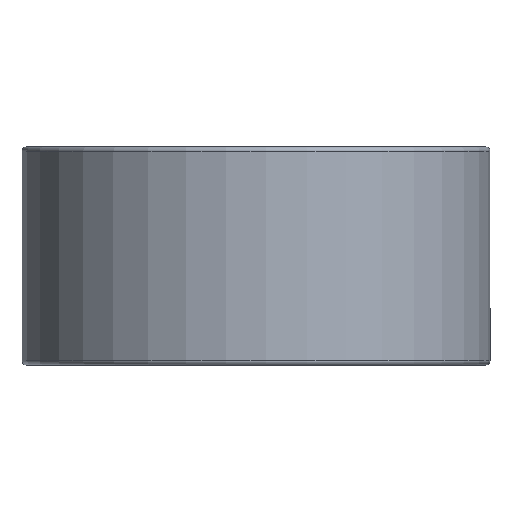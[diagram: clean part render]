
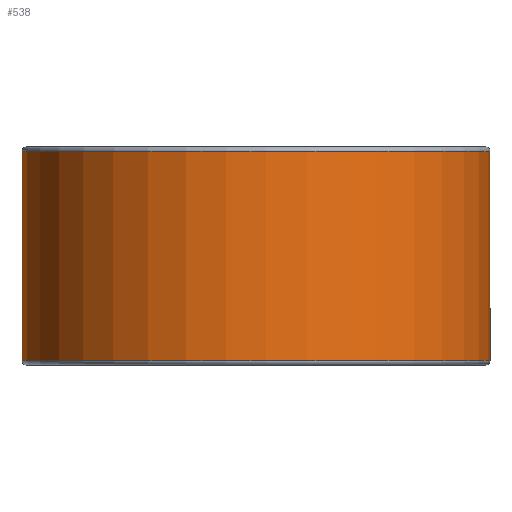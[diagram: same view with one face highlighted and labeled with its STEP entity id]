
A CAD part, front view. The second image highlights one B-rep face of the part: STEP entity #538.
In plain terms, the highlighted cylindrical face has radius 29 mm (diameter 58 mm), a full revolution.
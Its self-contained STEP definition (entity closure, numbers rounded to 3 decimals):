
#538=ADVANCED_FACE('',(#637,#638),#606,.T.);
#606=CYLINDRICAL_SURFACE('',#1353,29.);
#637=FACE_BOUND('',#705,.T.);
#638=FACE_BOUND('',#706,.T.);
#705=EDGE_LOOP('',(#813));
#706=EDGE_LOOP('',(#814));
#813=ORIENTED_EDGE('',*,*,#1155,.T.);
#814=ORIENTED_EDGE('',*,*,#1156,.T.);
#1061=VERTEX_POINT('',#1831);
#1062=VERTEX_POINT('',#1833);
#1155=EDGE_CURVE('',#1061,#1061,#1281,.T.);
#1156=EDGE_CURVE('',#1062,#1062,#1282,.T.);
#1281=CIRCLE('',#1351,29.);
#1282=CIRCLE('',#1352,29.);
#1351=AXIS2_PLACEMENT_3D('',#1830,#1504,#1505);
#1352=AXIS2_PLACEMENT_3D('',#1832,#1506,#1507);
#1353=AXIS2_PLACEMENT_3D('',#1834,#1508,#1509);
#1504=DIRECTION('',(0.,0.,-1.));
#1505=DIRECTION('',(1.,0.,0.));
#1506=DIRECTION('',(0.,0.,1.));
#1507=DIRECTION('',(1.,0.,0.));
#1508=DIRECTION('',(0.,0.,-1.));
#1509=DIRECTION('',(-1.,0.,0.));
#1830=CARTESIAN_POINT('',(0.,0.,26.5));
#1831=CARTESIAN_POINT('',(29.,0.,26.5));
#1832=CARTESIAN_POINT('',(0.,0.,0.5));
#1833=CARTESIAN_POINT('',(29.,0.,0.5));
#1834=CARTESIAN_POINT('',(0.,0.,27.));
